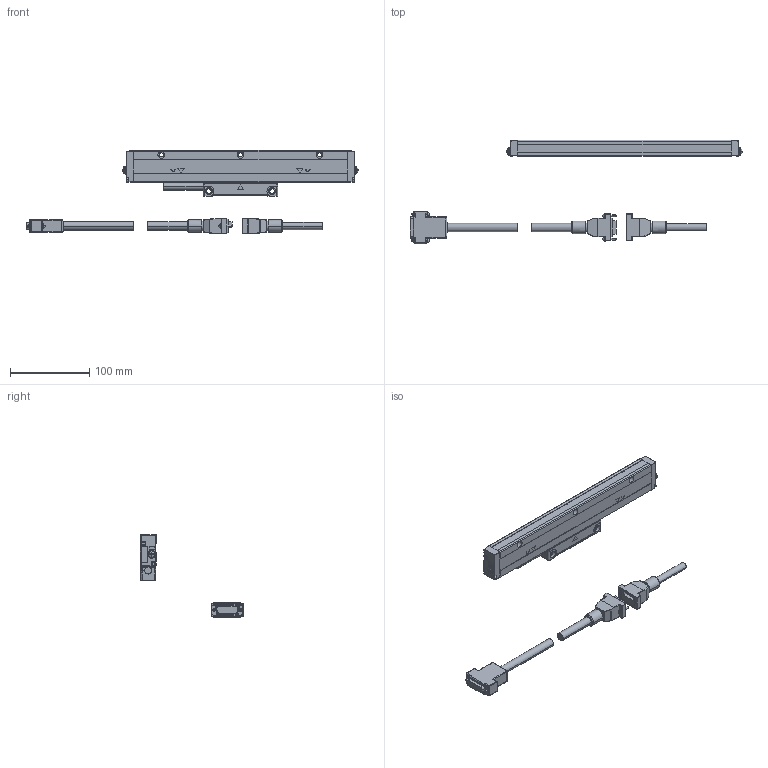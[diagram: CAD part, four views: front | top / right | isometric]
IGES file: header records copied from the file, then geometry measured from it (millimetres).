
Start section: Elysium IGES Interface
Global section: file name: 73H\\Utsu119s\kiyo_cad\data\3D\AT211\HP掲載用_201803\多点固定\AT211-150A.igs; native system: Creo Elements/Direct Modeling 18.1B  29-Sep-2012; preprocessor: Creo Element/Direct IGES_3D V2.2; author: Unknown; organization: Unknown; date: 20180315.094520; units: millimetre
Bounding box: 419.56 x 130.6 x 105 mm (x, y, z)
Volume: 323184.8 mm3; surface area: 74020.1 mm2
Topology: 5 solids, 5 shells, 1027 faces, 2478 edges, 1452 vertices
Faces by surface type: bspline 1027
